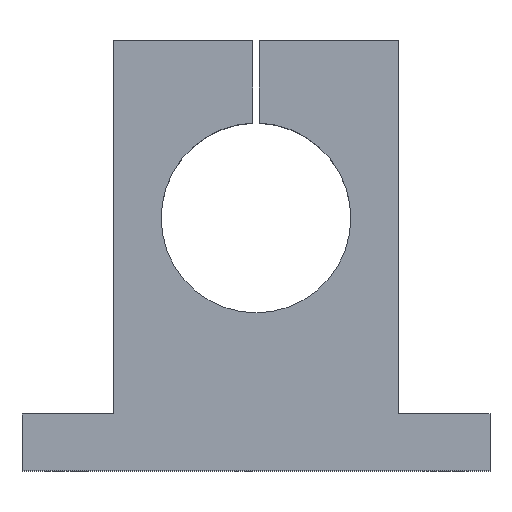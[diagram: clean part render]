
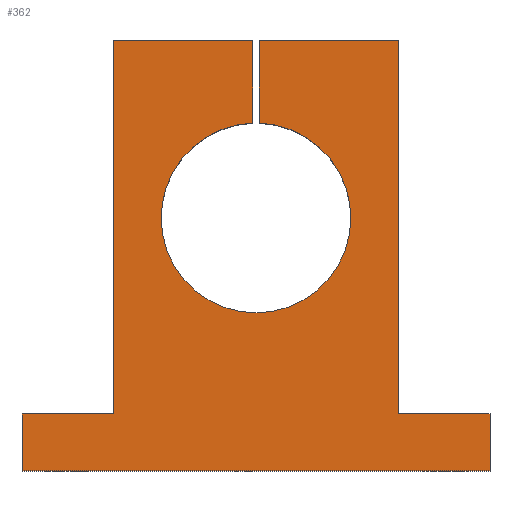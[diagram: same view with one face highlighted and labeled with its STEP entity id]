
A CAD part, top view. The second image highlights one B-rep face of the part: STEP entity #362.
In plain terms, the highlighted planar face has unit normal (0, 0, 1).
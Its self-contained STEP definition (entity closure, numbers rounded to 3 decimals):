
#27=CIRCLE('',#397,30.);
#47=ORIENTED_EDGE('',*,*,#139,.F.);
#48=ORIENTED_EDGE('',*,*,#135,.T.);
#49=ORIENTED_EDGE('',*,*,#140,.T.);
#50=ORIENTED_EDGE('',*,*,#141,.T.);
#51=ORIENTED_EDGE('',*,*,#142,.T.);
#52=ORIENTED_EDGE('',*,*,#143,.T.);
#53=ORIENTED_EDGE('',*,*,#144,.T.);
#54=ORIENTED_EDGE('',*,*,#145,.T.);
#55=ORIENTED_EDGE('',*,*,#146,.T.);
#56=ORIENTED_EDGE('',*,*,#147,.T.);
#57=ORIENTED_EDGE('',*,*,#132,.F.);
#58=ORIENTED_EDGE('',*,*,#148,.F.);
#132=EDGE_CURVE('',#178,#179,#212,.T.);
#135=EDGE_CURVE('',#181,#182,#214,.T.);
#139=EDGE_CURVE('',#181,#185,#218,.T.);
#140=EDGE_CURVE('',#182,#186,#219,.T.);
#141=EDGE_CURVE('',#186,#187,#220,.T.);
#142=EDGE_CURVE('',#187,#188,#221,.T.);
#143=EDGE_CURVE('',#188,#189,#222,.T.);
#144=EDGE_CURVE('',#189,#190,#223,.T.);
#145=EDGE_CURVE('',#190,#191,#224,.T.);
#146=EDGE_CURVE('',#191,#192,#225,.T.);
#147=EDGE_CURVE('',#192,#179,#226,.T.);
#148=EDGE_CURVE('',#185,#178,#27,.T.);
#178=VERTEX_POINT('',#531);
#179=VERTEX_POINT('',#533);
#181=VERTEX_POINT('',#539);
#182=VERTEX_POINT('',#540);
#185=VERTEX_POINT('',#548);
#186=VERTEX_POINT('',#550);
#187=VERTEX_POINT('',#552);
#188=VERTEX_POINT('',#554);
#189=VERTEX_POINT('',#556);
#190=VERTEX_POINT('',#558);
#191=VERTEX_POINT('',#560);
#192=VERTEX_POINT('',#562);
#212=LINE('',#532,#246);
#214=LINE('',#538,#248);
#218=LINE('',#547,#252);
#219=LINE('',#549,#253);
#220=LINE('',#551,#254);
#221=LINE('',#553,#255);
#222=LINE('',#555,#256);
#223=LINE('',#557,#257);
#224=LINE('',#559,#258);
#225=LINE('',#561,#259);
#226=LINE('',#563,#260);
#246=VECTOR('',#431,1000.);
#248=VECTOR('',#437,1000.);
#252=VECTOR('',#443,1000.);
#253=VECTOR('',#444,1000.);
#254=VECTOR('',#445,1000.);
#255=VECTOR('',#446,1000.);
#256=VECTOR('',#447,1000.);
#257=VECTOR('',#448,1000.);
#258=VECTOR('',#449,1000.);
#259=VECTOR('',#450,1000.);
#260=VECTOR('',#451,1000.);
#281=EDGE_LOOP('',(#47,#48,#49,#50,#51,#52,#53,#54,#55,#56,#57,#58));
#315=FACE_BOUND('',#281,.T.);
#348=PLANE('',#396);
#362=ADVANCED_FACE('',(#315),#348,.T.);
#396=AXIS2_PLACEMENT_3D('',#546,#441,#442);
#397=AXIS2_PLACEMENT_3D('',#564,#452,#453);
#431=DIRECTION('',(0.,1.,0.));
#437=DIRECTION('',(-1.,0.,0.));
#441=DIRECTION('',(0.,0.,1.));
#442=DIRECTION('',(1.,0.,0.));
#443=DIRECTION('',(0.,-1.,0.));
#444=DIRECTION('',(0.,-1.,0.));
#445=DIRECTION('',(-1.,0.,0.));
#446=DIRECTION('',(0.,-1.,0.));
#447=DIRECTION('',(1.,0.,0.));
#448=DIRECTION('',(0.,1.,0.));
#449=DIRECTION('',(-1.,0.,0.));
#450=DIRECTION('',(0.,1.,0.));
#451=DIRECTION('',(-1.,0.,0.));
#452=DIRECTION('',(0.,0.,1.));
#453=DIRECTION('',(1.,0.,0.));
#531=CARTESIAN_POINT('',(1.,29.983,22.5));
#532=CARTESIAN_POINT('',(1.,56.,22.5));
#533=CARTESIAN_POINT('',(1.,56.,22.5));
#538=CARTESIAN_POINT('',(45.,56.,22.5));
#539=CARTESIAN_POINT('',(-1.,56.,22.5));
#540=CARTESIAN_POINT('',(-45.,56.,22.5));
#546=CARTESIAN_POINT('',(74.,-62.,22.5));
#547=CARTESIAN_POINT('',(-1.,56.,22.5));
#548=CARTESIAN_POINT('',(-1.,29.983,22.5));
#549=CARTESIAN_POINT('',(-45.,-62.,22.5));
#550=CARTESIAN_POINT('',(-45.,-62.,22.5));
#551=CARTESIAN_POINT('',(-74.,-62.,22.5));
#552=CARTESIAN_POINT('',(-74.,-62.,22.5));
#553=CARTESIAN_POINT('',(-74.,-80.,22.5));
#554=CARTESIAN_POINT('',(-74.,-80.,22.5));
#555=CARTESIAN_POINT('',(-74.,-80.,22.5));
#556=CARTESIAN_POINT('',(74.,-80.,22.5));
#557=CARTESIAN_POINT('',(74.,-80.,22.5));
#558=CARTESIAN_POINT('',(74.,-62.,22.5));
#559=CARTESIAN_POINT('',(74.,-62.,22.5));
#560=CARTESIAN_POINT('',(45.,-62.,22.5));
#561=CARTESIAN_POINT('',(45.,-62.,22.5));
#562=CARTESIAN_POINT('',(45.,56.,22.5));
#563=CARTESIAN_POINT('',(45.,56.,22.5));
#564=CARTESIAN_POINT('',(0.,0.,22.5));
